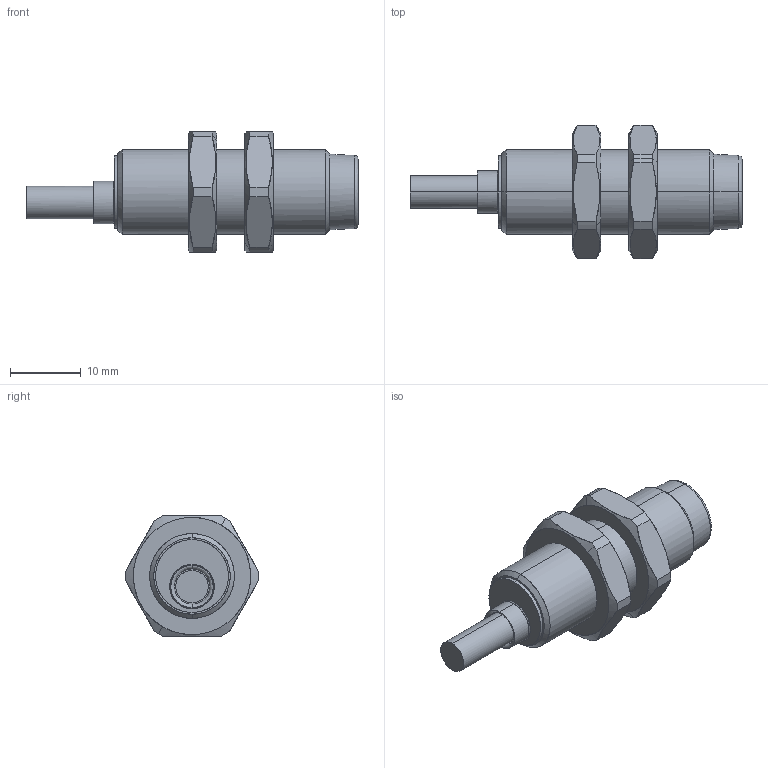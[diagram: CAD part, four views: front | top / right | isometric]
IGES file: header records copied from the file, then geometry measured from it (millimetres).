
Start section: Comment
Global section: file name: IFRM 12X9103.igs; native system:  By Spatial Corp.; preprocessor: XPlus GENERIC/IGES 3.0; author: Author; organization: Title; date: 20040805.075606; units: inch
Bounding box: 47 x 18.85 x 17 mm (x, y, z)
Surface area: 3011.3 mm2 (no closed solid volume)
Topology: 0 solids, 0 shells, 83 faces, 380 edges, 380 vertices
Faces by surface type: bspline 83
